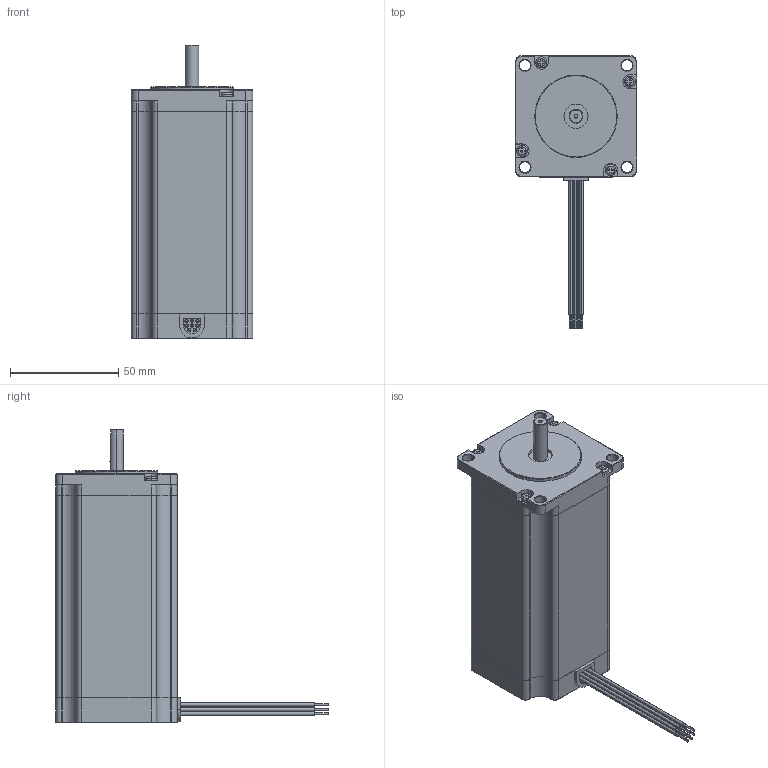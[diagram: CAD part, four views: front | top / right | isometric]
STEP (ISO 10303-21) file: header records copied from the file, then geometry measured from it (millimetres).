
FILE_DESCRIPTION (( 'STEP AP214' ), '1' );
FILE_NAME ('23Y302S-LW8.STEP', '2010-06-11T15:25:56', ( 'Tim Raines' ), ( 'Anaheim Automation' ), 'SwSTEP 2.0', 'SolidWorks 2010', '' );
FILE_SCHEMA (( 'AUTOMOTIVE_DESIGN' ));
Length unit declared in the file: inch
Products named in the file (1): 23Y302S-LW8
Bounding box: 56.13 x 125.98 x 135.59 mm (x, y, z)
Volume: 326613.1 mm3; surface area: 34016.1 mm2
Topology: 1 solids, 1 shells, 336 faces, 830 edges, 526 vertices
Faces by surface type: plane 164, cylinder 117, cone 47, torus 8
Entity records: 14282 total; most frequent: DIRECTION 1785, CARTESIAN_POINT 1691, ORIENTED_EDGE 1644, EDGE_CURVE 822, AXIS2_PLACEMENT_3D 628, VECTOR 529, LINE 529, VERTEX_POINT 526
